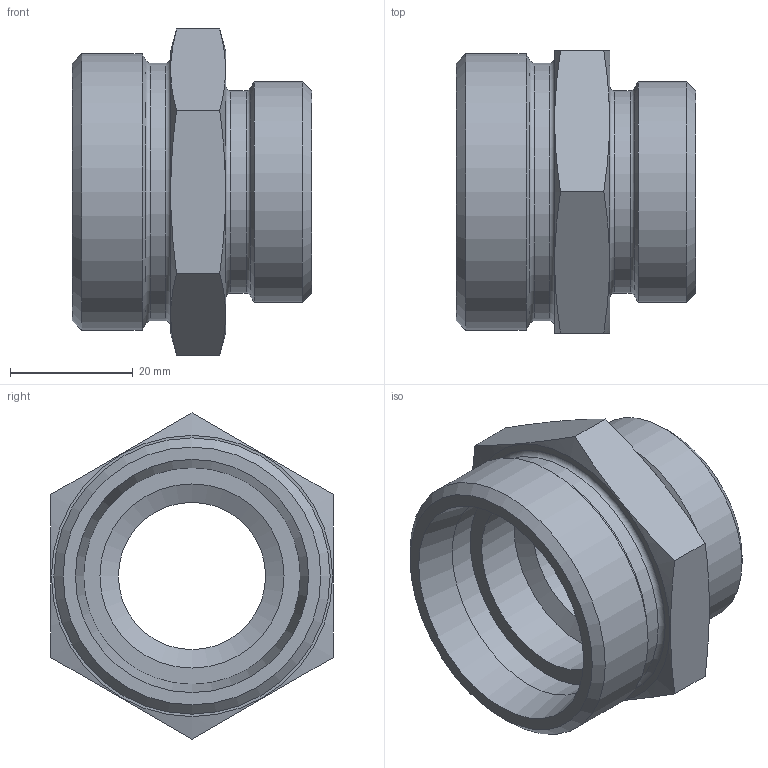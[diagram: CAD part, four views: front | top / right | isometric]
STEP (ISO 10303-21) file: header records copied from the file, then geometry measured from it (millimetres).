
FILE_DESCRIPTION( ( 'Unknown' ), '1' );
FILE_NAME( 'C:/Users/p.nanko/Desktop/3D SR/XGR3528L.stp', 'Unknown', ( 'Peter Nanko' ), ( 'Armaturen Arndt' ), 'PSStep 14.0', 'Solid Edge ST4', ' ' );
FILE_SCHEMA( ( 'AUTOMOTIVE_DESIGN { 1 0 10303 214 1 1 1 1 }' ) );
Length unit declared in the file: millimetre
Products named in the file (1): 1
Bounding box: 39 x 46 x 53.12 mm (x, y, z)
Volume: 27054.7 mm3; surface area: 11394.3 mm2
Topology: 1 solids, 1 shells, 33 faces, 70 edges, 43 vertices
Faces by surface type: plane 12, cone 9, cylinder 8, torus 4
Full cylindrical faces by diameter (mm): 24 x1, 28 x1, 30 x1, 33 x1, 35.3 x1, 36 x1, 42 x1, 45 x1
Entity records: 1092 total; most frequent: CARTESIAN_POINT 216, DIRECTION 126, ORIENTED_EDGE 88, AXIS2_PLACEMENT_3D 60, EDGE_LOOP 60, FACE_OUTER_BOUND 45, EDGE_CURVE 44, VERTEX_POINT 38
